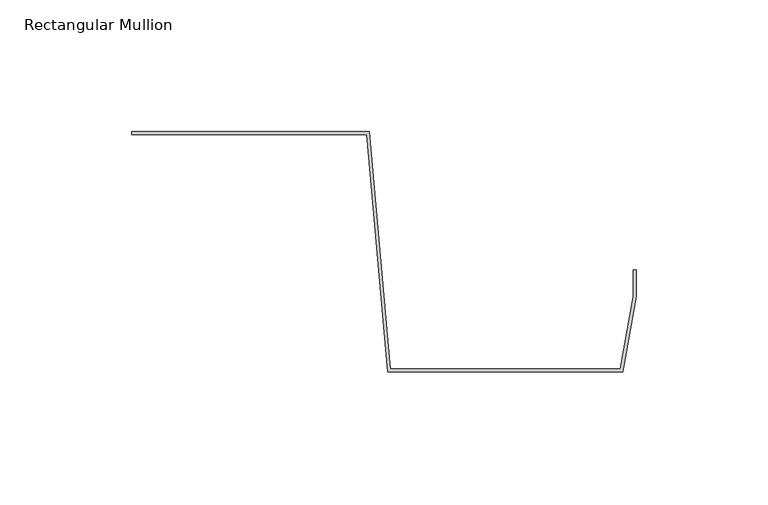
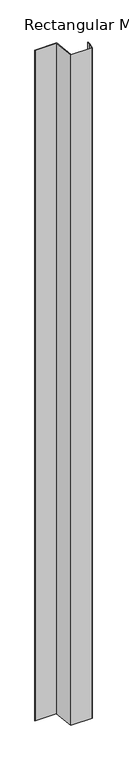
"""IFC4 building model written with IfcOpenShell, lengths in millimetres: member geometry, Rectangular Mullion : CD_NINELINE_Box End."""

from ifc_helpers import new_model, si_unit, frame, origin, place, context, project, spatial, polyline, outline, extrude, source, transform, mapped, element, save


def rectangular_mullion_6e79b691(model_context):
    return source(origin(), model_context, "Body", "SweptSolid", [
        extrude(outline(polyline([(-191.0780283, 0.0), (-101.1693243, 0.0), (-93.1693243, -90.0), (-5.9127704, -90.0), (-1.006169, -62.3975992), (-1.006169, -52.3975992), (0.0, -52.3975992), (0.0, -62.4510836), (-5.0812033, -91.0357186), (-94.0812033, -91.0357186), (-102.0843783, -1.0), (-191.0780283, -1.0), (-191.0780283, 0.0)])), frame((0.0, 0.0, -2942.0), z_axis=(0.0, 0.0, 1.0), x_axis=(1.0, 0.0, 0.0)), (0.0, 0.0, 1.0), 2942.0),
    ])


if __name__ == "__main__":
    model = new_model("IFC4")
    model_context = context("Model", 3, world=origin())
    ifc_project = project(units=[si_unit("LENGTHUNIT", "METRE", prefix="MILLI")], contexts=[model_context])
    site = spatial("IfcSite", under=ifc_project)
    building = spatial("IfcBuilding", under=site)
    placement = place(None, origin())
    rectangular_mullion_shape = rectangular_mullion_6e79b691(model_context)
    element("IfcMember", 1, ObjectType="Rectangular Mullion : CD_NINELINE_Box End", at=placement, inside=building, context=model_context, shape_type="MappedRepresentation", body=[
        mapped(rectangular_mullion_shape, transform((0.0, 0.0, 0.0), x_axis=(1.0, 0.0, 0.0), y_axis=(0.0, 1.0, 0.0), z_axis=(0.0, 0.0, 1.0))),
    ])
    save(model, "model.ifc")
